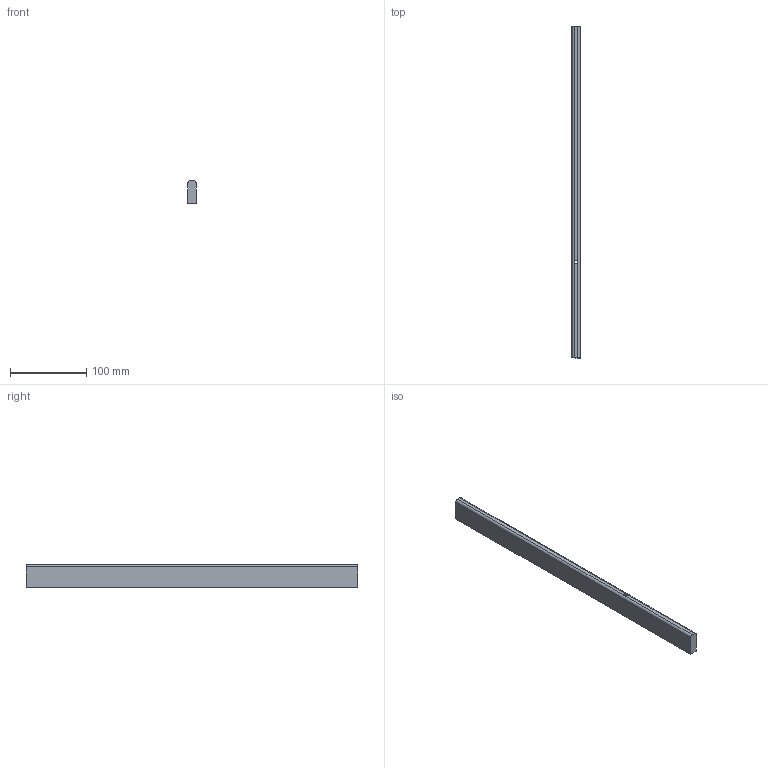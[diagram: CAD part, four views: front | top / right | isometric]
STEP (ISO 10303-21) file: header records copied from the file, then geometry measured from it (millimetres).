
FILE_DESCRIPTION (( 'STEP AP214' ), '1' );
FILE_NAME ('_Seitenreling_SP60702400_RL435.step', '2010-09-06T14:52:08', ( 'grass' ), ( '' ), 'SwSTEP 2.0', 'SolidWorks 2010', '' );
FILE_SCHEMA (( 'AUTOMOTIVE_DESIGN' ));
Length unit declared in the file: millimetre
Products named in the file (1): _Seitenreling_SP60702400_RL435
Bounding box: 10.5 x 435 x 30 mm (x, y, z)
Volume: 134425.6 mm3; surface area: 35275.4 mm2
Topology: 1 solids, 1 shells, 14 faces, 34 edges, 22 vertices
Faces by surface type: plane 8, cylinder 6
Entity records: 454 total; most frequent: DIRECTION 78, CARTESIAN_POINT 71, ORIENTED_EDGE 68, EDGE_CURVE 34, AXIS2_PLACEMENT_3D 29, VERTEX_POINT 22, LINE 20, VECTOR 20
